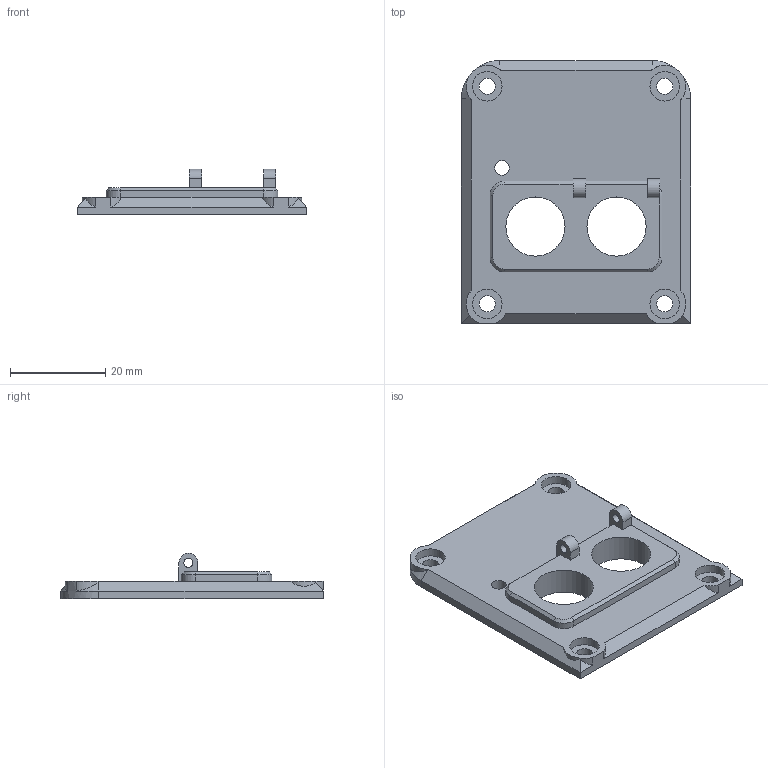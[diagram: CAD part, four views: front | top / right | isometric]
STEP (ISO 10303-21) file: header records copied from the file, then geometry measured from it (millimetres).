
FILE_DESCRIPTION(('Open CASCADE Model'),'2;1');
FILE_NAME('Open CASCADE Shape Model','2026-10-09T15:33:22',('Author'),( 'Open CASCADE'),'Open CASCADE STEP processor 7.9','Open CASCADE 7.9' ,'Unknown');
FILE_SCHEMA(('AUTOMOTIVE_DESIGN { 1 0 10303 214 1 1 1 1 }'));
Length unit declared in the file: millimetre
Products named in the file (1): Open CASCADE STEP translator 7.9 2
Bounding box: 48 x 55.1 x 9.5 mm (x, y, z)
Volume: 8770.9 mm3; surface area: 6280.6 mm2
Topology: 1 solids, 1 shells, 84 faces, 200 edges, 129 vertices
Faces by surface type: plane 41, cylinder 35, cone 8
Full cylindrical faces by diameter (mm): 1.7 x6, 1.9 x2, 3.1 x1, 3.4 x4, 6.2 x4, 12.4 x2
Entity records: 5527 total; most frequent: CARTESIAN_POINT 1563, DIRECTION 716, ORIENTED_EDGE 400, PCURVE 400, DEFINITIONAL_REPRESENTATION 400, LINE 354, VECTOR 354, EDGE_CURVE 200
